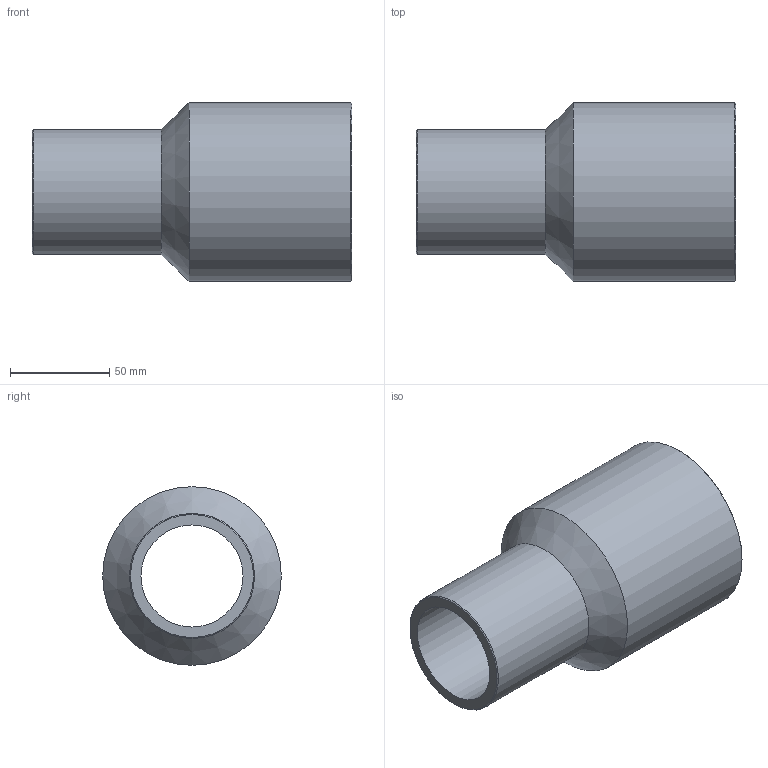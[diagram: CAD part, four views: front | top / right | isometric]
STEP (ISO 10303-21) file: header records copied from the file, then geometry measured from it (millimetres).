
FILE_DESCRIPTION(/* description */ ('Unknown'),/* implementation_level */ '2;1');
FILE_NAME(/* name */ 'RP090063C',/* time_stamp */ '2021-09-17T15:05:32+02:00',/* author */ ('Unknown'),/* organization */ ('Unknown'),/* preprocessor_version */ 'ST-DEVELOPER v16.7',/* originating_system */ 'Solid Edge',/* authorisation */ 'Unknown');
FILE_SCHEMA (('AUTOMOTIVE_DESIGN {1 0 10303 214 3 1 1}'));
Length unit declared in the file: millimetre
Products named in the file (1): RP090063C
Bounding box: 161 x 90 x 90 mm (x, y, z)
Volume: 276584.6 mm3; surface area: 76073.7 mm2
Topology: 1 solids, 1 shells, 10 faces, 19 edges, 11 vertices
Faces by surface type: cylinder 4, cone 4, plane 2
Full cylindrical faces by diameter (mm): 51.4 x1, 63 x1, 73.6 x1, 90 x1
Entity records: 238 total; most frequent: DIRECTION 42, CARTESIAN_POINT 31, AXIS2_PLACEMENT_3D 21, ORIENTED_EDGE 20, EDGE_LOOP 20, FACE_BOUND 20, EDGE_CURVE 10, VERTEX_POINT 10
